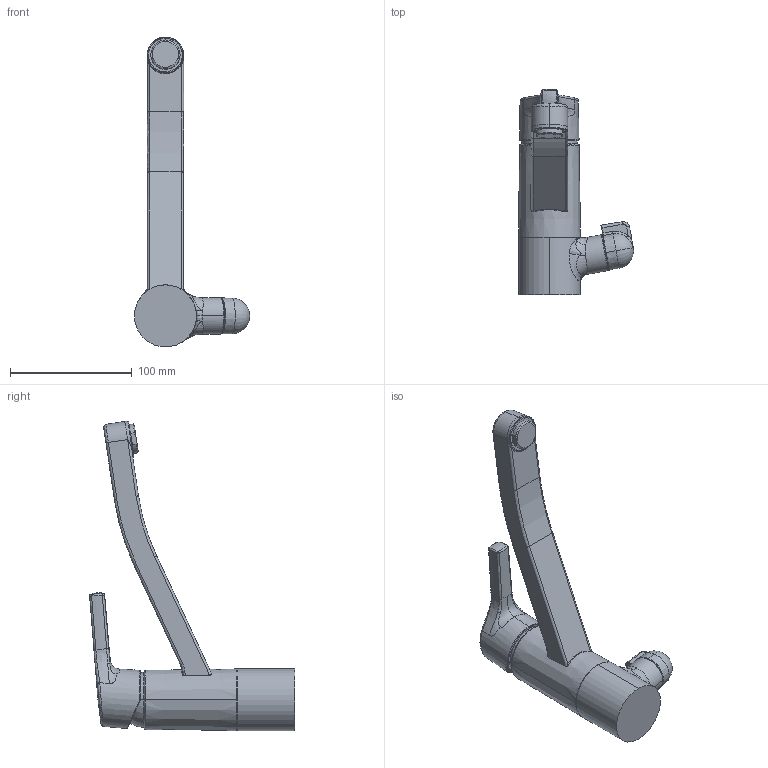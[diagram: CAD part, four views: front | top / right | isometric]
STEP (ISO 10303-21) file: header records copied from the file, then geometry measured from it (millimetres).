
FILE_DESCRIPTION (( 'STEP AP203' ), '1' );
FILE_NAME ('3935FH(2018)+56542203.STEP', '2018-07-02T06:56:27', ( '' ), ( '' ), 'SwSTEP 2.0', 'SolidWorks 2016', '' );
FILE_SCHEMA (( 'CONFIG_CONTROL_DESIGN' ));
Length unit declared in the file: millimetre
Products named in the file (1): 3935FH(2018)+56542203
Bounding box: 94.69 x 168.79 x 254.74 mm (x, y, z)
Volume: 485785.5 mm3; surface area: 57858.4 mm2
Topology: 1 solids, 1 shells, 164 faces, 406 edges, 248 vertices
Faces by surface type: bspline 89, cylinder 30, plane 20, cone 15, torus 8, sphere 2
Entity records: 22908 total; most frequent: CARTESIAN_POINT 19672, ORIENTED_EDGE 806, DIRECTION 443, EDGE_CURVE 403, VERTEX_POINT 248, B_SPLINE_CURVE_WITH_KNOTS 208, AXIS2_PLACEMENT_3D 191, EDGE_LOOP 171
